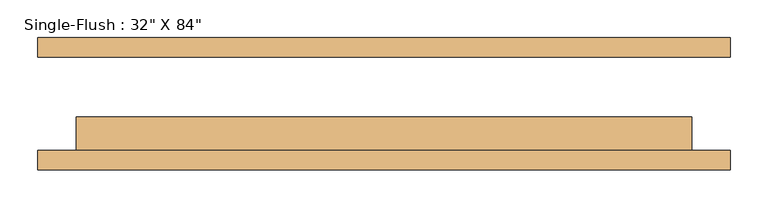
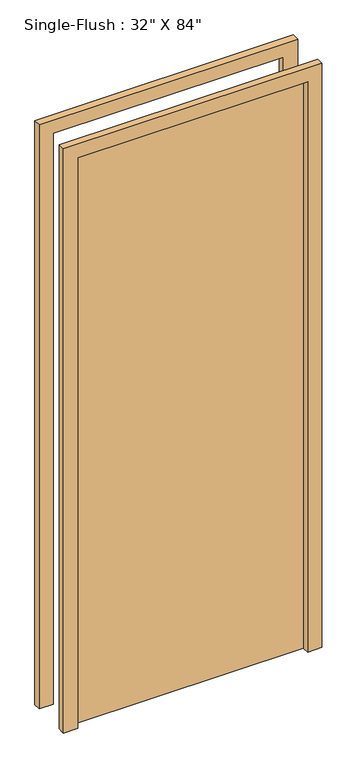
"""IFC4 building model written with IfcOpenShell, lengths in millimetres: door geometry."""

from ifc_helpers import new_model, si_unit, frame, origin, origin_with_axes, place, context, project, spatial, polyline, outline, extrude, source, transform, mapped, element, save


def door_ed16ebbe(model_context):
    return source(origin(), model_context, "Body", "SweptSolid", [
        extrude(outline(polyline([(2184.4, -457.2), (0.0, -457.2), (0.0, -406.4), (2133.6, -406.4), (2133.6, 406.4), (0.0, 406.4), (0.0, 457.2), (2184.4, 457.2), (2184.4, -457.2)])), frame((0.0, -87.3125, 0.0), z_axis=(0.0, 1.0, 0.0), x_axis=(0.0, 0.0, 1.0)), (0.0, 0.0, 1.0), 25.4),
        extrude(outline(polyline([(2184.4, 457.2), (2184.4, -457.2), (0.0, -457.2), (0.0, -406.4), (2133.6, -406.4), (2133.6, 406.4), (0.0, 406.4), (0.0, 457.2), (2184.4, 457.2)])), frame((0.0, 61.9125, 0.0), z_axis=(0.0, 1.0, 0.0), x_axis=(0.0, 0.0, 1.0)), (0.0, 0.0, 1.0), 25.4),
        extrude(outline(polyline([(406.4, -17.4625), (406.4, -61.9125), (-406.4, -61.9125), (-406.4, -17.4625), (406.4, -17.4625)])), origin_with_axes(), (0.0, 0.0, 1.0), 2133.6),
    ])


if __name__ == "__main__":
    model = new_model("IFC4")
    model_context = context("Model", 3, world=origin())
    ifc_project = project(units=[si_unit("LENGTHUNIT", "METRE", prefix="MILLI")], contexts=[model_context])
    site = spatial("IfcSite", under=ifc_project)
    building = spatial("IfcBuilding", under=site)
    placement = place(None, origin())
    door_shape = door_ed16ebbe(model_context)
    element("IfcDoor", 1, ObjectType="Single-Flush : 32\" X 84\"", at=placement, inside=building, context=model_context, shape_type="MappedRepresentation", body=[
        mapped(door_shape, transform((0.0, 0.0, 0.0), x_axis=(1.0, 0.0, 0.0), y_axis=(0.0, 1.0, 0.0), z_axis=(0.0, 0.0, 1.0))),
    ])
    save(model, "model.ifc")
